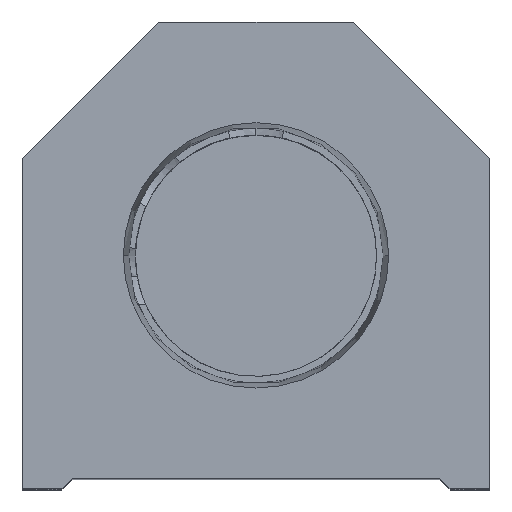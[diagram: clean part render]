
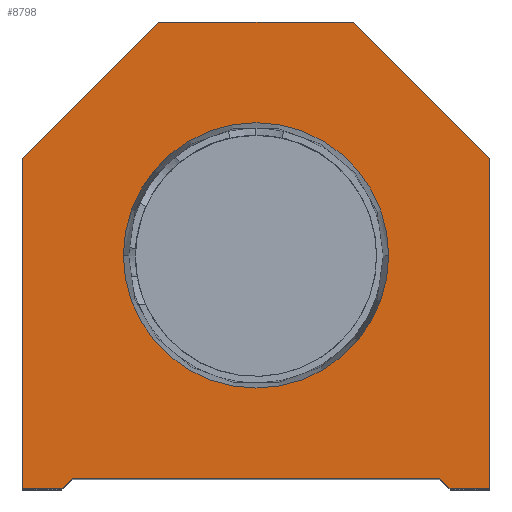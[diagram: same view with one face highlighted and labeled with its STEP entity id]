
A CAD part, top view. The second image highlights one B-rep face of the part: STEP entity #8798.
In plain terms, the highlighted planar face has unit normal (0, 0, 1).
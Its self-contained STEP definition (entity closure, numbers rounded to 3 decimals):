
#53 = ORIENTED_EDGE ( 'NONE', *, *, #1187, .T. ) ;
#141 = ORIENTED_EDGE ( 'NONE', *, *, #4660, .F. ) ;
#300 = DIRECTION ( 'NONE',  ( 0., -1., 0. ) ) ;
#419 = DIRECTION ( 'NONE',  ( 0., 1., 0. ) ) ;
#643 = ORIENTED_EDGE ( 'NONE', *, *, #3058, .T. ) ;
#710 = EDGE_CURVE ( 'NONE', #19692, #14624, #9484, .T. ) ;
#743 = DIRECTION ( 'NONE',  ( 0.707, 0.707, 0. ) ) ;
#993 = CARTESIAN_POINT ( 'NONE',  ( 0., 22.25, 0. ) ) ;
#1187 = EDGE_CURVE ( 'NONE', #8112, #4266, #9532, .T. ) ;
#1473 = VECTOR ( 'NONE', #11938, 1000. ) ;
#1517 = CARTESIAN_POINT ( 'NONE',  ( -17.5, 1., 0. ) ) ;
#1682 = DIRECTION ( 'NONE',  ( 1., 0., 0. ) ) ;
#1750 = VERTEX_POINT ( 'NONE', #15204 ) ;
#2193 = FACE_OUTER_BOUND ( 'NONE', #11333, .T. ) ;
#2387 = DIRECTION ( 'NONE',  ( 1., 0., 0. ) ) ;
#2541 = CARTESIAN_POINT ( 'NONE',  ( 22.25, 31.5, 0. ) ) ;
#2974 = VECTOR ( 'NONE', #6306, 1000. ) ;
#2995 = CARTESIAN_POINT ( 'NONE',  ( 9.25, 44.5, 0. ) ) ;
#3058 = EDGE_CURVE ( 'NONE', #4266, #19692, #12386, .T. ) ;
#3230 = CARTESIAN_POINT ( 'NONE',  ( 22.25, 0., 0. ) ) ;
#3480 = DIRECTION ( 'NONE',  ( 1., 0., 0. ) ) ;
#3829 = AXIS2_PLACEMENT_3D ( 'NONE', #993, #8309, #17634 ) ;
#4080 = VERTEX_POINT ( 'NONE', #14919 ) ;
#4129 = EDGE_CURVE ( 'NONE', #18361, #1750, #6376, .T. ) ;
#4266 = VERTEX_POINT ( 'NONE', #10106 ) ;
#4600 = VECTOR ( 'NONE', #743, 1000. ) ;
#4660 = EDGE_CURVE ( 'NONE', #4908, #11120, #12407, .T. ) ;
#4908 = VERTEX_POINT ( 'NONE', #14179 ) ;
#5272 = CARTESIAN_POINT ( 'NONE',  ( -9.25, 9.25, 0. ) ) ;
#5878 = AXIS2_PLACEMENT_3D ( 'NONE', #17221, #11457, #2387 ) ;
#5974 = EDGE_CURVE ( 'NONE', #14233, #18361, #8955, .T. ) ;
#5994 = DIRECTION ( 'NONE',  ( -1., 0., 0. ) ) ;
#6052 = ORIENTED_EDGE ( 'NONE', *, *, #12283, .T. ) ;
#6306 = DIRECTION ( 'NONE',  ( 1., 0., 0. ) ) ;
#6332 = CARTESIAN_POINT ( 'NONE',  ( 17.5, 1., 0. ) ) ;
#6376 = LINE ( 'NONE', #16903, #14007 ) ;
#6844 = AXIS2_PLACEMENT_3D ( 'NONE', #9722, #15783, #15596 ) ;
#7802 = ORIENTED_EDGE ( 'NONE', *, *, #9568, .F. ) ;
#8112 = VERTEX_POINT ( 'NONE', #19689 ) ;
#8187 = PLANE ( 'NONE',  #5878 ) ;
#8233 = ORIENTED_EDGE ( 'NONE', *, *, #5974, .T. ) ;
#8309 = DIRECTION ( 'NONE',  ( 0., 0., 1. ) ) ;
#8491 = ORIENTED_EDGE ( 'NONE', *, *, #14169, .T. ) ;
#8605 = CARTESIAN_POINT ( 'NONE',  ( 18.5, 0., 0. ) ) ;
#8798 = ADVANCED_FACE ( 'NONE', ( #9960, #2193 ), #8187, .T. ) ;
#8955 = LINE ( 'NONE', #19563, #9965 ) ;
#9133 = EDGE_CURVE ( 'NONE', #14624, #17297, #11147, .T. ) ;
#9158 = VERTEX_POINT ( 'NONE', #14422 ) ;
#9258 = VECTOR ( 'NONE', #3480, 1000. ) ;
#9484 = LINE ( 'NONE', #17131, #2974 ) ;
#9532 = LINE ( 'NONE', #17459, #10469 ) ;
#9568 = EDGE_CURVE ( 'NONE', #11120, #4908, #19200, .T. ) ;
#9722 = CARTESIAN_POINT ( 'NONE',  ( 0., 22.25, 0. ) ) ;
#9767 = EDGE_LOOP ( 'NONE', ( #7802, #141 ) ) ;
#9960 = FACE_BOUND ( 'NONE', #9767, .T. ) ;
#9965 = VECTOR ( 'NONE', #10340, 1000. ) ;
#10106 = CARTESIAN_POINT ( 'NONE',  ( -22.25, 31.5, 0. ) ) ;
#10340 = DIRECTION ( 'NONE',  ( 0.707, -0.707, 0. ) ) ;
#10469 = VECTOR ( 'NONE', #14225, 1000. ) ;
#10501 = VECTOR ( 'NONE', #419, 1000. ) ;
#10561 = ORIENTED_EDGE ( 'NONE', *, *, #17054, .T. ) ;
#10767 = LINE ( 'NONE', #2995, #15009 ) ;
#11060 = LINE ( 'NONE', #13953, #9258 ) ;
#11120 = VERTEX_POINT ( 'NONE', #11517 ) ;
#11147 = LINE ( 'NONE', #5272, #4600 ) ;
#11333 = EDGE_LOOP ( 'NONE', ( #13452, #15256, #19410, #8233, #14727, #8491, #10561, #6052, #53, #643 ) ) ;
#11457 = DIRECTION ( 'NONE',  ( 0., 0., 1. ) ) ;
#11470 = CARTESIAN_POINT ( 'NONE',  ( -18.5, 0., 0. ) ) ;
#11517 = CARTESIAN_POINT ( 'NONE',  ( 12.647, 22.25, 0. ) ) ;
#11938 = DIRECTION ( 'NONE',  ( -0.707, 0.707, 0. ) ) ;
#12283 = EDGE_CURVE ( 'NONE', #9158, #8112, #10767, .T. ) ;
#12386 = LINE ( 'NONE', #13794, #18690 ) ;
#12407 = CIRCLE ( 'NONE', #3829, 12.647 ) ;
#13452 = ORIENTED_EDGE ( 'NONE', *, *, #710, .T. ) ;
#13794 = CARTESIAN_POINT ( 'NONE',  ( -22.25, 0., 0. ) ) ;
#13953 = CARTESIAN_POINT ( 'NONE',  ( -17.5, 1., 0. ) ) ;
#14007 = VECTOR ( 'NONE', #1682, 1000. ) ;
#14169 = EDGE_CURVE ( 'NONE', #1750, #4080, #18733, .T. ) ;
#14179 = CARTESIAN_POINT ( 'NONE',  ( -12.647, 22.25, 0. ) ) ;
#14225 = DIRECTION ( 'NONE',  ( -0.707, -0.707, 0. ) ) ;
#14233 = VERTEX_POINT ( 'NONE', #6332 ) ;
#14422 = CARTESIAN_POINT ( 'NONE',  ( 9.25, 44.5, 0. ) ) ;
#14624 = VERTEX_POINT ( 'NONE', #11470 ) ;
#14727 = ORIENTED_EDGE ( 'NONE', *, *, #4129, .T. ) ;
#14919 = CARTESIAN_POINT ( 'NONE',  ( 22.25, 31.5, 0. ) ) ;
#15009 = VECTOR ( 'NONE', #5994, 1000. ) ;
#15204 = CARTESIAN_POINT ( 'NONE',  ( 22.25, 0., 0. ) ) ;
#15256 = ORIENTED_EDGE ( 'NONE', *, *, #9133, .T. ) ;
#15596 = DIRECTION ( 'NONE',  ( 1., 0., 0. ) ) ;
#15783 = DIRECTION ( 'NONE',  ( 0., 0., 1. ) ) ;
#15933 = EDGE_CURVE ( 'NONE', #17297, #14233, #11060, .T. ) ;
#16903 = CARTESIAN_POINT ( 'NONE',  ( 17.5, 0., 0. ) ) ;
#17054 = EDGE_CURVE ( 'NONE', #4080, #9158, #18060, .T. ) ;
#17131 = CARTESIAN_POINT ( 'NONE',  ( -17.5, 0., 0. ) ) ;
#17221 = CARTESIAN_POINT ( 'NONE',  ( 0., 0., 0. ) ) ;
#17297 = VERTEX_POINT ( 'NONE', #1517 ) ;
#17459 = CARTESIAN_POINT ( 'NONE',  ( -22.25, 31.5, 0. ) ) ;
#17634 = DIRECTION ( 'NONE',  ( 1., 0., 0. ) ) ;
#18060 = LINE ( 'NONE', #2541, #1473 ) ;
#18361 = VERTEX_POINT ( 'NONE', #8605 ) ;
#18508 = CARTESIAN_POINT ( 'NONE',  ( -22.25, 0., 0. ) ) ;
#18690 = VECTOR ( 'NONE', #300, 1000. ) ;
#18733 = LINE ( 'NONE', #3230, #10501 ) ;
#19200 = CIRCLE ( 'NONE', #6844, 12.647 ) ;
#19410 = ORIENTED_EDGE ( 'NONE', *, *, #15933, .T. ) ;
#19563 = CARTESIAN_POINT ( 'NONE',  ( 9.25, 9.25, 0. ) ) ;
#19689 = CARTESIAN_POINT ( 'NONE',  ( -9.25, 44.5, 0. ) ) ;
#19692 = VERTEX_POINT ( 'NONE', #18508 ) ;
